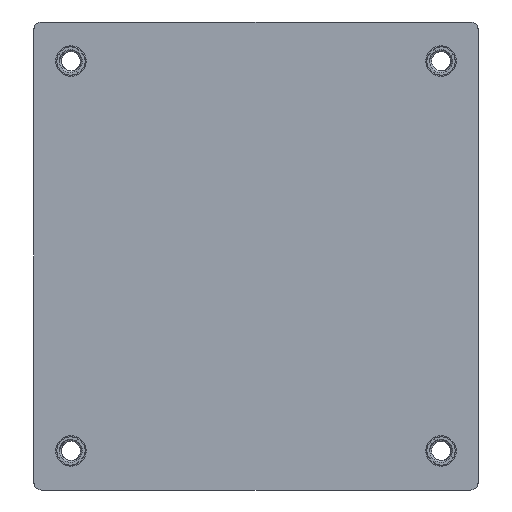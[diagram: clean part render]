
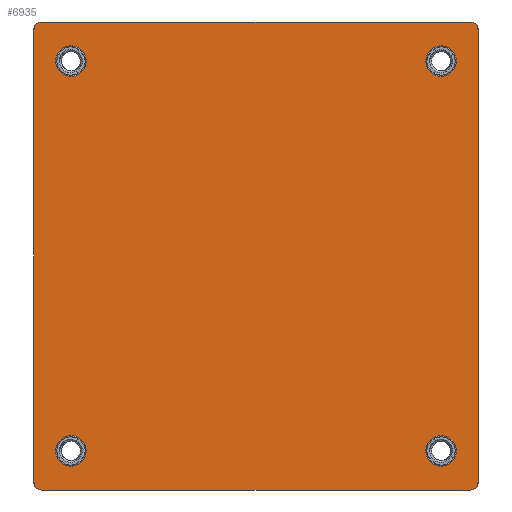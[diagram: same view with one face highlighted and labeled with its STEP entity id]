
A CAD part, front view. The second image highlights one B-rep face of the part: STEP entity #6935.
In plain terms, the highlighted planar face has unit normal (0, -1, 0).
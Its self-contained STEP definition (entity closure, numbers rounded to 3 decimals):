
#83 = AXIS2_PLACEMENT_3D ( 'NONE', #46075, #1618, #7179 ) ;
#522 = EDGE_CURVE ( 'NONE', #3367, #49080, #3646, .T. ) ;
#900 = VERTEX_POINT ( 'NONE', #36776 ) ;
#911 = DIRECTION ( 'NONE',  ( 0., -1., 0. ) ) ;
#1054 = AXIS2_PLACEMENT_3D ( 'NONE', #35848, #911, #15728 ) ;
#1267 = DIRECTION ( 'NONE',  ( 0., 1., 0. ) ) ;
#1618 = DIRECTION ( 'NONE',  ( 0., -1., 0. ) ) ;
#1747 = AXIS2_PLACEMENT_3D ( 'NONE', #22096, #17591, #34787 ) ;
#2327 = AXIS2_PLACEMENT_3D ( 'NONE', #18440, #19260, #18984 ) ;
#2939 = DIRECTION ( 'NONE',  ( 0., -1., 0. ) ) ;
#3367 = VERTEX_POINT ( 'NONE', #16721 ) ;
#3646 = CIRCLE ( 'NONE', #32454, 2. ) ;
#3840 = CARTESIAN_POINT ( 'NONE',  ( 24.13, -1.5, -23.4 ) ) ;
#4457 = CARTESIAN_POINT ( 'NONE',  ( -24.13, -1.5, -27.4 ) ) ;
#4788 = CARTESIAN_POINT ( 'NONE',  ( -27.95, -1.5, -30.5 ) ) ;
#5349 = EDGE_CURVE ( 'NONE', #28799, #27329, #54541, .T. ) ;
#5353 = VERTEX_POINT ( 'NONE', #36194 ) ;
#5829 = DIRECTION ( 'NONE',  ( 0., 0., 1. ) ) ;
#6111 = VERTEX_POINT ( 'NONE', #55687 ) ;
#6119 = CARTESIAN_POINT ( 'NONE',  ( -28.95, -1.5, 29.5 ) ) ;
#6312 = DIRECTION ( 'NONE',  ( 0., 0., 1. ) ) ;
#6935 = ADVANCED_FACE ( 'NONE', ( #33582, #50783, #34122, #25677, #43663 ), #31002, .F. ) ;
#7065 = DIRECTION ( 'NONE',  ( 0., 0., 1. ) ) ;
#7179 = DIRECTION ( 'NONE',  ( 0., 0., 1. ) ) ;
#7694 = CIRCLE ( 'NONE', #51782, 1. ) ;
#7742 = EDGE_LOOP ( 'NONE', ( #42853, #21766 ) ) ;
#8985 = ORIENTED_EDGE ( 'NONE', *, *, #11957, .T. ) ;
#9517 = DIRECTION ( 'NONE',  ( 0., 0., 1. ) ) ;
#10120 = CARTESIAN_POINT ( 'NONE',  ( 24.13, -1.5, 27.4 ) ) ;
#10236 = DIRECTION ( 'NONE',  ( 0., 1., 0. ) ) ;
#10489 = ORIENTED_EDGE ( 'NONE', *, *, #32332, .F. ) ;
#10492 = CARTESIAN_POINT ( 'NONE',  ( 24.13, -1.5, -25.4 ) ) ;
#11414 = VERTEX_POINT ( 'NONE', #6119 ) ;
#11557 = EDGE_CURVE ( 'NONE', #20677, #11414, #41628, .T. ) ;
#11744 = AXIS2_PLACEMENT_3D ( 'NONE', #38069, #45957, #7065 ) ;
#11792 = CIRCLE ( 'NONE', #83, 1. ) ;
#11957 = EDGE_CURVE ( 'NONE', #27329, #28799, #16163, .T. ) ;
#12146 = ORIENTED_EDGE ( 'NONE', *, *, #21982, .T. ) ;
#12922 = LINE ( 'NONE', #30124, #40616 ) ;
#13031 = EDGE_CURVE ( 'NONE', #54014, #39489, #36051, .T. ) ;
#13239 = CARTESIAN_POINT ( 'NONE',  ( -28.95, -1.5, 30.5 ) ) ;
#14800 = EDGE_CURVE ( 'NONE', #20185, #19152, #27227, .T. ) ;
#14869 = ORIENTED_EDGE ( 'NONE', *, *, #16939, .T. ) ;
#15566 = ORIENTED_EDGE ( 'NONE', *, *, #54154, .T. ) ;
#15728 = DIRECTION ( 'NONE',  ( 0., 0., 1. ) ) ;
#16163 = CIRCLE ( 'NONE', #1747, 2. ) ;
#16721 = CARTESIAN_POINT ( 'NONE',  ( -24.13, -1.5, 27.4 ) ) ;
#16939 = EDGE_CURVE ( 'NONE', #5353, #11414, #28442, .T. ) ;
#17141 = CARTESIAN_POINT ( 'NONE',  ( -24.13, -1.5, 23.4 ) ) ;
#17207 = ORIENTED_EDGE ( 'NONE', *, *, #49153, .T. ) ;
#17591 = DIRECTION ( 'NONE',  ( 0., 1., 0. ) ) ;
#18440 = CARTESIAN_POINT ( 'NONE',  ( 24.13, -1.5, 25.4 ) ) ;
#18569 = LINE ( 'NONE', #39702, #27891 ) ;
#18856 = ORIENTED_EDGE ( 'NONE', *, *, #52700, .F. ) ;
#18859 = VECTOR ( 'NONE', #25302, 1000. ) ;
#18903 = CARTESIAN_POINT ( 'NONE',  ( 24.13, -1.5, 23.4 ) ) ;
#18984 = DIRECTION ( 'NONE',  ( 0., 0., 1. ) ) ;
#19152 = VERTEX_POINT ( 'NONE', #3840 ) ;
#19260 = DIRECTION ( 'NONE',  ( 0., 1., 0. ) ) ;
#20185 = VERTEX_POINT ( 'NONE', #41091 ) ;
#20209 = CARTESIAN_POINT ( 'NONE',  ( 28.95, -1.5, 29.5 ) ) ;
#20677 = VERTEX_POINT ( 'NONE', #30244 ) ;
#20797 = VERTEX_POINT ( 'NONE', #30520 ) ;
#20923 = DIRECTION ( 'NONE',  ( 0., 0., 1. ) ) ;
#20944 = AXIS2_PLACEMENT_3D ( 'NONE', #10492, #10236, #35616 ) ;
#21427 = AXIS2_PLACEMENT_3D ( 'NONE', #13239, #22261, #30446 ) ;
#21766 = ORIENTED_EDGE ( 'NONE', *, *, #14800, .T. ) ;
#21982 = EDGE_CURVE ( 'NONE', #49080, #3367, #55268, .T. ) ;
#22096 = CARTESIAN_POINT ( 'NONE',  ( 24.13, -1.5, 25.4 ) ) ;
#22261 = DIRECTION ( 'NONE',  ( 0., 1., 0. ) ) ;
#22339 = DIRECTION ( 'NONE',  ( 0., 0., 1. ) ) ;
#22667 = EDGE_LOOP ( 'NONE', ( #33403, #12146 ) ) ;
#22766 = CARTESIAN_POINT ( 'NONE',  ( -24.13, -1.5, -25.4 ) ) ;
#22854 = AXIS2_PLACEMENT_3D ( 'NONE', #40409, #1267, #6312 ) ;
#24670 = VERTEX_POINT ( 'NONE', #20209 ) ;
#24880 = AXIS2_PLACEMENT_3D ( 'NONE', #26594, #43740, #22339 ) ;
#25302 = DIRECTION ( 'NONE',  ( 0., 0., 1. ) ) ;
#25677 = FACE_BOUND ( 'NONE', #7742, .T. ) ;
#26370 = ORIENTED_EDGE ( 'NONE', *, *, #11557, .F. ) ;
#26594 = CARTESIAN_POINT ( 'NONE',  ( -27.95, -1.5, 29.5 ) ) ;
#26676 = DIRECTION ( 'NONE',  ( 1., 0., 0. ) ) ;
#27002 = DIRECTION ( 'NONE',  ( 0., 1., 0. ) ) ;
#27186 = ORIENTED_EDGE ( 'NONE', *, *, #36367, .F. ) ;
#27227 = CIRCLE ( 'NONE', #20944, 2. ) ;
#27329 = VERTEX_POINT ( 'NONE', #18903 ) ;
#27891 = VECTOR ( 'NONE', #43919, 1000. ) ;
#28442 = CIRCLE ( 'NONE', #24880, 1. ) ;
#28799 = VERTEX_POINT ( 'NONE', #10120 ) ;
#28872 = AXIS2_PLACEMENT_3D ( 'NONE', #22766, #27002, #9517 ) ;
#29566 = DIRECTION ( 'NONE',  ( -1., 0., 0. ) ) ;
#29662 = CARTESIAN_POINT ( 'NONE',  ( 24.13, -1.5, -25.4 ) ) ;
#30124 = CARTESIAN_POINT ( 'NONE',  ( -28.95, -1.5, -30.5 ) ) ;
#30244 = CARTESIAN_POINT ( 'NONE',  ( -28.95, -1.5, -29.5 ) ) ;
#30270 = VERTEX_POINT ( 'NONE', #4788 ) ;
#30446 = DIRECTION ( 'NONE',  ( 1., 0., 0. ) ) ;
#30520 = CARTESIAN_POINT ( 'NONE',  ( 28.95, -1.5, -29.5 ) ) ;
#30955 = CARTESIAN_POINT ( 'NONE',  ( -24.13, -1.5, 25.4 ) ) ;
#31002 = PLANE ( 'NONE',  #21427 ) ;
#31174 = CARTESIAN_POINT ( 'NONE',  ( -28.95, -1.5, 30.5 ) ) ;
#31780 = DIRECTION ( 'NONE',  ( 0., 1., 0. ) ) ;
#32091 = ORIENTED_EDGE ( 'NONE', *, *, #13031, .T. ) ;
#32308 = CIRCLE ( 'NONE', #39508, 2. ) ;
#32332 = EDGE_CURVE ( 'NONE', #24670, #20797, #18569, .T. ) ;
#32454 = AXIS2_PLACEMENT_3D ( 'NONE', #30955, #31780, #5829 ) ;
#33101 = CARTESIAN_POINT ( 'NONE',  ( 27.95, -1.5, 29.5 ) ) ;
#33403 = ORIENTED_EDGE ( 'NONE', *, *, #522, .T. ) ;
#33582 = FACE_BOUND ( 'NONE', #22667, .T. ) ;
#33882 = DIRECTION ( 'NONE',  ( 0., 1., 0. ) ) ;
#34122 = FACE_BOUND ( 'NONE', #54774, .T. ) ;
#34787 = DIRECTION ( 'NONE',  ( 0., 0., 1. ) ) ;
#34843 = LINE ( 'NONE', #31174, #38589 ) ;
#35616 = DIRECTION ( 'NONE',  ( 0., 0., 1. ) ) ;
#35848 = CARTESIAN_POINT ( 'NONE',  ( 27.95, -1.5, -29.5 ) ) ;
#36051 = CIRCLE ( 'NONE', #11744, 2. ) ;
#36076 = ORIENTED_EDGE ( 'NONE', *, *, #5349, .T. ) ;
#36194 = CARTESIAN_POINT ( 'NONE',  ( -27.95, -1.5, 30.5 ) ) ;
#36367 = EDGE_CURVE ( 'NONE', #6111, #30270, #12922, .T. ) ;
#36776 = CARTESIAN_POINT ( 'NONE',  ( 27.95, -1.5, 30.5 ) ) ;
#37896 = DIRECTION ( 'NONE',  ( 0., 0., 1. ) ) ;
#38069 = CARTESIAN_POINT ( 'NONE',  ( -24.13, -1.5, -25.4 ) ) ;
#38589 = VECTOR ( 'NONE', #26676, 1000. ) ;
#38751 = CIRCLE ( 'NONE', #28872, 2. ) ;
#39489 = VERTEX_POINT ( 'NONE', #49887 ) ;
#39508 = AXIS2_PLACEMENT_3D ( 'NONE', #29662, #33882, #20923 ) ;
#39702 = CARTESIAN_POINT ( 'NONE',  ( 28.95, -1.5, -30.5 ) ) ;
#39735 = CIRCLE ( 'NONE', #1054, 1. ) ;
#40409 = CARTESIAN_POINT ( 'NONE',  ( -24.13, -1.5, 25.4 ) ) ;
#40616 = VECTOR ( 'NONE', #29566, 1000. ) ;
#40921 = ORIENTED_EDGE ( 'NONE', *, *, #50130, .T. ) ;
#41091 = CARTESIAN_POINT ( 'NONE',  ( 24.13, -1.5, -27.4 ) ) ;
#41628 = LINE ( 'NONE', #41908, #18859 ) ;
#41908 = CARTESIAN_POINT ( 'NONE',  ( -28.95, -1.5, -30.5 ) ) ;
#42543 = EDGE_CURVE ( 'NONE', #24670, #900, #7694, .T. ) ;
#42853 = ORIENTED_EDGE ( 'NONE', *, *, #53310, .T. ) ;
#43663 = FACE_OUTER_BOUND ( 'NONE', #54141, .T. ) ;
#43740 = DIRECTION ( 'NONE',  ( 0., -1., 0. ) ) ;
#43919 = DIRECTION ( 'NONE',  ( 0., 0., -1. ) ) ;
#45957 = DIRECTION ( 'NONE',  ( 0., 1., 0. ) ) ;
#46075 = CARTESIAN_POINT ( 'NONE',  ( -27.95, -1.5, -29.5 ) ) ;
#46653 = ORIENTED_EDGE ( 'NONE', *, *, #42543, .T. ) ;
#49080 = VERTEX_POINT ( 'NONE', #17141 ) ;
#49089 = EDGE_LOOP ( 'NONE', ( #36076, #8985 ) ) ;
#49153 = EDGE_CURVE ( 'NONE', #39489, #54014, #38751, .T. ) ;
#49887 = CARTESIAN_POINT ( 'NONE',  ( -24.13, -1.5, -23.4 ) ) ;
#50130 = EDGE_CURVE ( 'NONE', #6111, #20797, #39735, .T. ) ;
#50783 = FACE_BOUND ( 'NONE', #49089, .T. ) ;
#51782 = AXIS2_PLACEMENT_3D ( 'NONE', #33101, #2939, #37896 ) ;
#52700 = EDGE_CURVE ( 'NONE', #5353, #900, #34843, .T. ) ;
#53310 = EDGE_CURVE ( 'NONE', #19152, #20185, #32308, .T. ) ;
#54014 = VERTEX_POINT ( 'NONE', #4457 ) ;
#54141 = EDGE_LOOP ( 'NONE', ( #26370, #15566, #27186, #40921, #10489, #46653, #18856, #14869 ) ) ;
#54154 = EDGE_CURVE ( 'NONE', #20677, #30270, #11792, .T. ) ;
#54541 = CIRCLE ( 'NONE', #2327, 2. ) ;
#54774 = EDGE_LOOP ( 'NONE', ( #17207, #32091 ) ) ;
#55268 = CIRCLE ( 'NONE', #22854, 2. ) ;
#55687 = CARTESIAN_POINT ( 'NONE',  ( 27.95, -1.5, -30.5 ) ) ;
